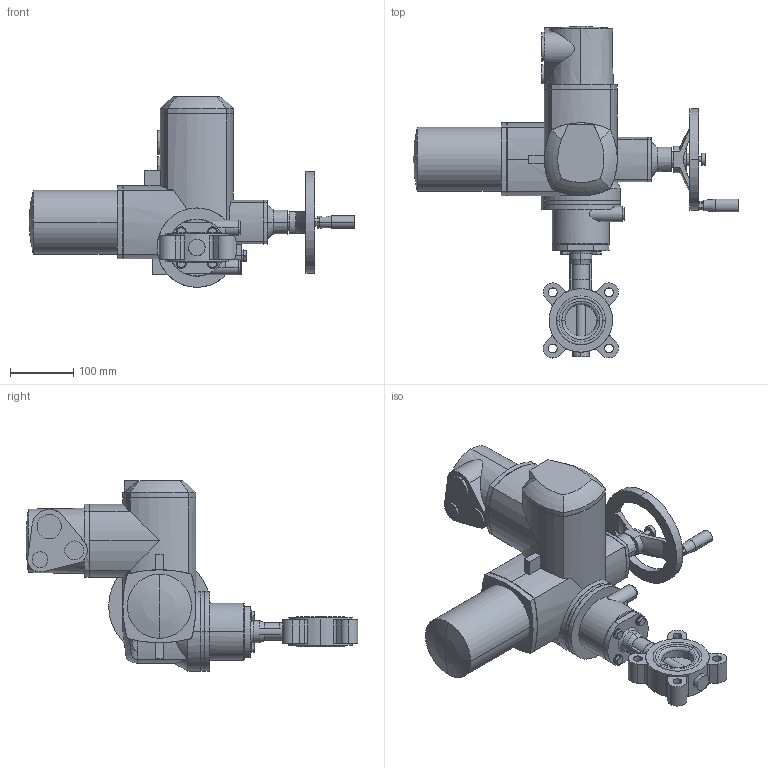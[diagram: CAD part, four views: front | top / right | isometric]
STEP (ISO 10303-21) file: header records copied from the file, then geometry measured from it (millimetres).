
FILE_DESCRIPTION (( 'STEP AP214' ), '1' );
FILE_NAME ('67528.step', '2020-10-23T13:45:18', ( '' ), ( '' ), 'SwSTEP 2.0', 'SolidWorks 2019', '' );
FILE_SCHEMA (( 'AUTOMOTIVE_DESIGN' ));
Length unit declared in the file: millimetre
Products named in the file (7): 67528; SQ(R) 05.2_SQ 05.2 Drehstrommotor; 6kt-Schr DIN 933_M8x25; 54377_SQ05.2 F05_F07-VK11; Gewindestift mit Kegelkuppe und In-6kt DIN 913 A4_Gewindestift mit In-6kt M5x10; U-Scheibe DIN 125 A_M8; TL20-0050_M01
Assembly tree (12 placements, depth 2):
  67528
    TL20-0050_M01
    U-Scheibe DIN 125 A_M8  x4
    6kt-Schr DIN 933_M8x25  x4
    SQ(R) 05.2_SQ 05.2 Drehstrommotor
    54377_SQ05.2 F05_F07-VK11
    Gewindestift mit Kegelkuppe und In-6kt DIN 913 A4_Gewindestift mit In-6kt M5x10
Bounding box: 512.7 x 522.67 x 300.3 mm (x, y, z)
Volume: 8386287.3 mm3; surface area: 459105.2 mm2
Topology: 12 solids, 12 shells, 702 faces, 1752 edges, 1109 vertices
Faces by surface type: plane 349, cylinder 219, cone 109, bspline 11, torus 10, sphere 4
Entity records: 26466 total; most frequent: CARTESIAN_POINT 7482, DIRECTION 3137, ORIENTED_EDGE 3082, EDGE_CURVE 1541, AXIS2_PLACEMENT_3D 1163, VERTEX_POINT 987, LINE 811, VECTOR 811
